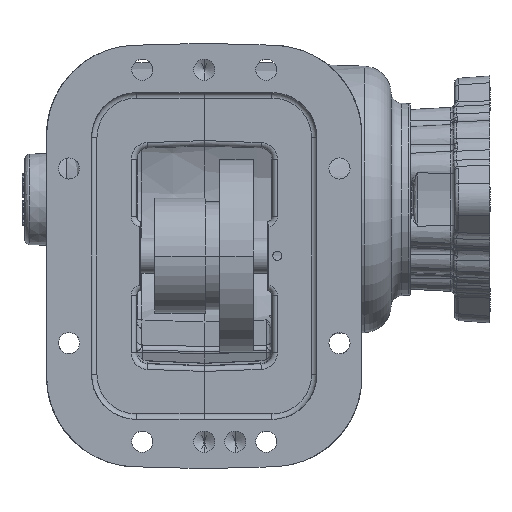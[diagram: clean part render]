
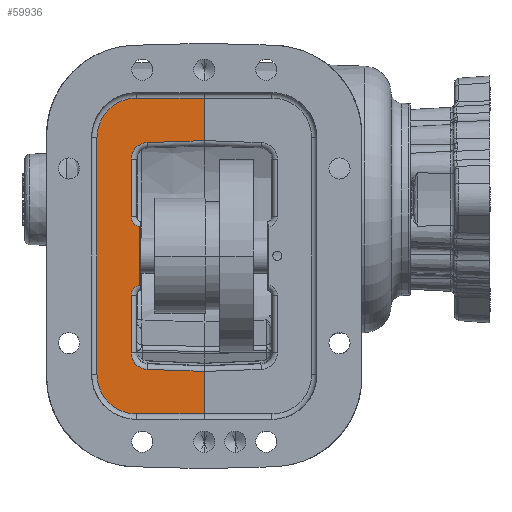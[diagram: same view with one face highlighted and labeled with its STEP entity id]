
A CAD part, front view. The second image highlights one B-rep face of the part: STEP entity #59936.
In plain terms, the highlighted planar face has unit normal (0, -1, 0).
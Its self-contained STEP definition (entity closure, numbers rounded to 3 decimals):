
#13642 = FACE_OUTER_BOUND ( 'NONE', #71634, .T. ) ;
#14990 = CARTESIAN_POINT ( 'NONE',  ( -88.773, -151.106, 55.209 ) ) ;
#15000 = PLANE ( 'NONE',  #31635 ) ;
#15002 = DIRECTION ( 'NONE',  ( 0., 1., 0. ) ) ;
#15004 = DIRECTION ( 'NONE',  ( 0., 0., 1. ) ) ;
#18730 = CARTESIAN_POINT ( 'NONE',  ( 0.127, -151.106, 55.209 ) ) ;
#18733 = DIRECTION ( 'NONE',  ( 0., 0., -1. ) ) ;
#18735 = CARTESIAN_POINT ( 'NONE',  ( 0.127, -151.106, 55.209 ) ) ;
#18738 = DIRECTION ( 'NONE',  ( 0., 0., -1. ) ) ;
#23069 = CARTESIAN_POINT ( 'NONE',  ( -37.973, -151.106, 26.761 ) ) ;
#23180 = CARTESIAN_POINT ( 'NONE',  ( -60.325, -151.106, -128.941 ) ) ;
#23241 = CARTESIAN_POINT ( 'NONE',  ( -31.951, -151.106, 1.64 ) ) ;
#23263 = CARTESIAN_POINT ( 'NONE',  ( 0.127, -151.106, 2.76 ) ) ;
#24749 = LINE ( 'NONE', #18730, #24759 ) ;
#24756 = LINE ( 'NONE', #18735, #24764 ) ;
#24759 = VECTOR ( 'NONE', #18733, 1000. ) ;
#24764 = VECTOR ( 'NONE', #18738, 1000. ) ;
#30810 = AXIS2_PLACEMENT_3D ( 'NONE', #91880, #91881, #91882 ) ;
#30828 = AXIS2_PLACEMENT_3D ( 'NONE', #91912, #91913, #91914 ) ;
#30852 = AXIS2_PLACEMENT_3D ( 'NONE', #91955, #91956, #91957 ) ;
#30867 = AXIS2_PLACEMENT_3D ( 'NONE', #91985, #91986, #91987 ) ;
#30928 = AXIS2_PLACEMENT_3D ( 'NONE', #83821, #83823, #83825 ) ;
#30939 = AXIS2_PLACEMENT_3D ( 'NONE', #83898, #83900, #83902 ) ;
#31635 = AXIS2_PLACEMENT_3D ( 'NONE', #14990, #15002, #15004 ) ;
#37566 = EDGE_CURVE ( 'NONE', #107186, #107310, #103325, .T. ) ;
#37572 = EDGE_CURVE ( 'NONE', #107310, #107235, #103332, .T. ) ;
#37578 = EDGE_CURVE ( 'NONE', #107235, #107173, #103338, .T. ) ;
#37584 = EDGE_CURVE ( 'NONE', #107173, #107121, #103349, .T. ) ;
#37591 = EDGE_CURVE ( 'NONE', #107121, #107176, #103357, .T. ) ;
#37599 = EDGE_CURVE ( 'NONE', #107176, #107080, #103364, .T. ) ;
#37605 = EDGE_CURVE ( 'NONE', #107080, #107207, #103370, .T. ) ;
#37611 = EDGE_CURVE ( 'NONE', #107207, #107589, #103380, .T. ) ;
#37617 = EDGE_CURVE ( 'NONE', #107589, #107610, #103386, .T. ) ;
#37682 = EDGE_CURVE ( 'NONE', #107523, #107086, #103435, .T. ) ;
#37684 = EDGE_CURVE ( 'NONE', #107086, #107165, #103434, .T. ) ;
#37688 = EDGE_CURVE ( 'NONE', #107158, #107523, #103442, .T. ) ;
#37694 = EDGE_CURVE ( 'NONE', #107397, #107158, #103452, .T. ) ;
#37700 = EDGE_CURVE ( 'NONE', #107146, #107397, #103458, .T. ) ;
#39487 = EDGE_CURVE ( 'NONE', #107186, #107165, #24749, .T. ) ;
#39489 = EDGE_CURVE ( 'NONE', #107146, #107610, #24756, .T. ) ;
#59936 = ADVANCED_FACE ( 'NONE', ( #13642 ), #15000, .F. ) ;
#71634 = EDGE_LOOP ( 'NONE', ( #106757, #106758, #106760, #106762, #106763, #106765, #106767, #106769, #106771, #106773, #106774, #106776, #106778, #106779, #106780, #106782 ) ) ;
#83818 = DIRECTION ( 'NONE',  ( 1., 0., 0. ) ) ;
#83821 = CARTESIAN_POINT ( 'NONE',  ( -37.973, -151.106, -128.941 ) ) ;
#83823 = DIRECTION ( 'NONE',  ( 0., -1., 0. ) ) ;
#83825 = DIRECTION ( 'NONE',  ( 0., 0., 1. ) ) ;
#83828 = CARTESIAN_POINT ( 'NONE',  ( 0.127, -151.106, -151.293 ) ) ;
#83845 = CARTESIAN_POINT ( 'NONE',  ( -60.325, -151.106, -128.941 ) ) ;
#83857 = DIRECTION ( 'NONE',  ( 0., 0., -1. ) ) ;
#83898 = CARTESIAN_POINT ( 'NONE',  ( -37.973, -151.106, 4.409 ) ) ;
#83900 = DIRECTION ( 'NONE',  ( 0., -1., 0. ) ) ;
#83902 = DIRECTION ( 'NONE',  ( 0., 0., 1. ) ) ;
#83929 = CARTESIAN_POINT ( 'NONE',  ( -37.973, -151.106, 26.761 ) ) ;
#83941 = DIRECTION ( 'NONE',  ( -1., 0., 0. ) ) ;
#91859 = DIRECTION ( 'NONE',  ( -0.999, 0., 0.035 ) ) ;
#91862 = CARTESIAN_POINT ( 'NONE',  ( -31.951, -151.106, -126.172 ) ) ;
#91880 = CARTESIAN_POINT ( 'NONE',  ( -31.623, -151.106, -116.779 ) ) ;
#91881 = DIRECTION ( 'NONE',  ( 0., 1., 0. ) ) ;
#91882 = DIRECTION ( 'NONE',  ( 0., 0., 1. ) ) ;
#91891 = DIRECTION ( 'NONE',  ( 0., 0., 1. ) ) ;
#91893 = CARTESIAN_POINT ( 'NONE',  ( -41.021, -151.106, -84.428 ) ) ;
#91912 = CARTESIAN_POINT ( 'NONE',  ( -34.925, -151.106, -84.428 ) ) ;
#91913 = DIRECTION ( 'NONE',  ( 0., 1., 0. ) ) ;
#91914 = DIRECTION ( 'NONE',  ( 0., 0., 1. ) ) ;
#91925 = DIRECTION ( 'NONE',  ( 0., 0., 1. ) ) ;
#91929 = CARTESIAN_POINT ( 'NONE',  ( -36.195, -151.106, -46.066 ) ) ;
#91955 = CARTESIAN_POINT ( 'NONE',  ( -34.925, -151.106, -40.104 ) ) ;
#91956 = DIRECTION ( 'NONE',  ( 0., 1., 0. ) ) ;
#91957 = DIRECTION ( 'NONE',  ( 0., 0., 1. ) ) ;
#91963 = DIRECTION ( 'NONE',  ( 0., 0., 1. ) ) ;
#91965 = CARTESIAN_POINT ( 'NONE',  ( -41.021, -151.106, -7.753 ) ) ;
#91985 = CARTESIAN_POINT ( 'NONE',  ( -31.623, -151.106, -7.753 ) ) ;
#91986 = DIRECTION ( 'NONE',  ( 0., 1., 0. ) ) ;
#91987 = DIRECTION ( 'NONE',  ( 0., 0., 1. ) ) ;
#91996 = CARTESIAN_POINT ( 'NONE',  ( 0.021, -151.106, 2.756 ) ) ;
#92002 = DIRECTION ( 'NONE',  ( 0.999, 0., 0.035 ) ) ;
#95626 = CARTESIAN_POINT ( 'NONE',  ( -41.021, -151.106, -40.104 ) ) ;
#95631 = CARTESIAN_POINT ( 'NONE',  ( -37.973, -151.106, -151.293 ) ) ;
#95664 = CARTESIAN_POINT ( 'NONE',  ( -36.195, -151.106, -78.466 ) ) ;
#95689 = CARTESIAN_POINT ( 'NONE',  ( 0.127, -151.106, 26.761 ) ) ;
#95701 = CARTESIAN_POINT ( 'NONE',  ( -60.325, -151.106, 4.409 ) ) ;
#95708 = CARTESIAN_POINT ( 'NONE',  ( 0.127, -151.106, -151.293 ) ) ;
#95716 = CARTESIAN_POINT ( 'NONE',  ( -41.021, -151.106, -84.428 ) ) ;
#95719 = CARTESIAN_POINT ( 'NONE',  ( -36.195, -151.106, -46.066 ) ) ;
#95729 = CARTESIAN_POINT ( 'NONE',  ( 0.127, -151.106, -127.292 ) ) ;
#95750 = CARTESIAN_POINT ( 'NONE',  ( -41.021, -151.106, -7.753 ) ) ;
#95778 = CARTESIAN_POINT ( 'NONE',  ( -41.021, -151.106, -116.779 ) ) ;
#95857 = CARTESIAN_POINT ( 'NONE',  ( -31.951, -151.106, -126.172 ) ) ;
#103325 = LINE ( 'NONE', #91862, #103328 ) ;
#103328 = VECTOR ( 'NONE', #91859, 1000. ) ;
#103332 = CIRCLE ( 'NONE', #30810, 9.398 ) ;
#103338 = LINE ( 'NONE', #91893, #103344 ) ;
#103344 = VECTOR ( 'NONE', #91891, 1000. ) ;
#103349 = CIRCLE ( 'NONE', #30828, 6.096 ) ;
#103357 = LINE ( 'NONE', #91929, #103360 ) ;
#103360 = VECTOR ( 'NONE', #91925, 1000. ) ;
#103364 = CIRCLE ( 'NONE', #30852, 6.096 ) ;
#103370 = LINE ( 'NONE', #91965, #103376 ) ;
#103376 = VECTOR ( 'NONE', #91963, 1000. ) ;
#103380 = CIRCLE ( 'NONE', #30867, 9.398 ) ;
#103386 = LINE ( 'NONE', #91996, #103392 ) ;
#103392 = VECTOR ( 'NONE', #92002, 1000. ) ;
#103434 = LINE ( 'NONE', #83828, #103439 ) ;
#103435 = CIRCLE ( 'NONE', #30928, 22.352 ) ;
#103439 = VECTOR ( 'NONE', #83818, 1000. ) ;
#103442 = LINE ( 'NONE', #83845, #103446 ) ;
#103446 = VECTOR ( 'NONE', #83857, 1000. ) ;
#103452 = CIRCLE ( 'NONE', #30939, 22.352 ) ;
#103458 = LINE ( 'NONE', #83929, #103462 ) ;
#103462 = VECTOR ( 'NONE', #83941, 1000. ) ;
#106757 = ORIENTED_EDGE ( 'NONE', *, *, #39487, .F. ) ;
#106758 = ORIENTED_EDGE ( 'NONE', *, *, #37566, .T. ) ;
#106760 = ORIENTED_EDGE ( 'NONE', *, *, #37572, .T. ) ;
#106762 = ORIENTED_EDGE ( 'NONE', *, *, #37578, .T. ) ;
#106763 = ORIENTED_EDGE ( 'NONE', *, *, #37584, .T. ) ;
#106765 = ORIENTED_EDGE ( 'NONE', *, *, #37591, .T. ) ;
#106767 = ORIENTED_EDGE ( 'NONE', *, *, #37599, .T. ) ;
#106769 = ORIENTED_EDGE ( 'NONE', *, *, #37605, .T. ) ;
#106771 = ORIENTED_EDGE ( 'NONE', *, *, #37611, .T. ) ;
#106773 = ORIENTED_EDGE ( 'NONE', *, *, #37617, .T. ) ;
#106774 = ORIENTED_EDGE ( 'NONE', *, *, #39489, .F. ) ;
#106776 = ORIENTED_EDGE ( 'NONE', *, *, #37700, .T. ) ;
#106778 = ORIENTED_EDGE ( 'NONE', *, *, #37694, .T. ) ;
#106779 = ORIENTED_EDGE ( 'NONE', *, *, #37688, .T. ) ;
#106780 = ORIENTED_EDGE ( 'NONE', *, *, #37682, .T. ) ;
#106782 = ORIENTED_EDGE ( 'NONE', *, *, #37684, .T. ) ;
#107080 = VERTEX_POINT ( 'NONE', #95626 ) ;
#107086 = VERTEX_POINT ( 'NONE', #95631 ) ;
#107121 = VERTEX_POINT ( 'NONE', #95664 ) ;
#107146 = VERTEX_POINT ( 'NONE', #95689 ) ;
#107158 = VERTEX_POINT ( 'NONE', #95701 ) ;
#107165 = VERTEX_POINT ( 'NONE', #95708 ) ;
#107173 = VERTEX_POINT ( 'NONE', #95716 ) ;
#107176 = VERTEX_POINT ( 'NONE', #95719 ) ;
#107186 = VERTEX_POINT ( 'NONE', #95729 ) ;
#107207 = VERTEX_POINT ( 'NONE', #95750 ) ;
#107235 = VERTEX_POINT ( 'NONE', #95778 ) ;
#107310 = VERTEX_POINT ( 'NONE', #95857 ) ;
#107397 = VERTEX_POINT ( 'NONE', #23069 ) ;
#107523 = VERTEX_POINT ( 'NONE', #23180 ) ;
#107589 = VERTEX_POINT ( 'NONE', #23241 ) ;
#107610 = VERTEX_POINT ( 'NONE', #23263 ) ;
